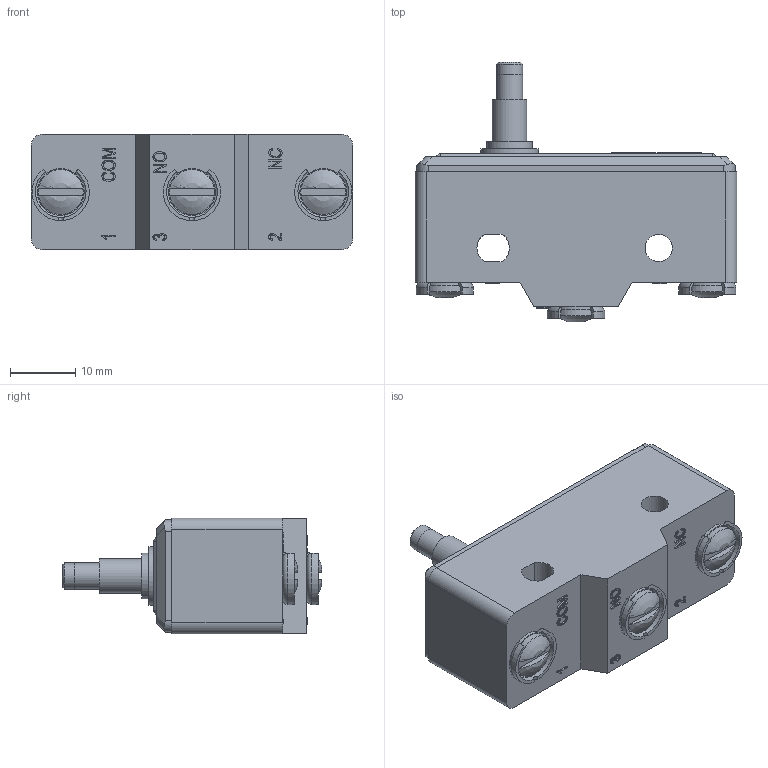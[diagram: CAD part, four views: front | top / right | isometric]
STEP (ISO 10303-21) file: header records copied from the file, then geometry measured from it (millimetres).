
FILE_DESCRIPTION((''),'2; 1');
FILE_NAME('','2026-03-27T16:26:29',(''),(''),'CST STEP Exporter V1.0','Unknown','');
FILE_SCHEMA(('CONFIG_CONTROL_DESIGN'));
Length unit declared in the file: metre
Assembly tree (11 placements, depth 2):
  (unnamed)
    (unnamed)
    (unnamed)
    (unnamed)
    (unnamed)
    (unnamed)
    (unnamed)
    (unnamed)
    (unnamed)
    (unnamed)
    (unnamed)
    (unnamed)
Bounding box: 49.4 x 39.81 x 17.7 mm (x, y, z)
Surface area: 11748.9 mm2 (no closed solid volume)
Topology: 0 solids, 11 shells, 379 faces, 1033 edges, 686 vertices
Faces by surface type: plane 261, extrusion 62, cylinder 39, torus 6, revolution 6, bspline 4, cone 1
Full cylindrical faces by diameter (mm): 4 x2, 4.2 x1, 5.3 x1, 6.9 x3, 7 x1, 8.9 x1
Entity records: 16696 total; most frequent: CARTESIAN_POINT 4325, ORIENTED_EDGE 1941, DIRECTION 1650, EDGE_CURVE 1019, VECTOR 811, LINE 749, VERTEX_POINT 682, EDGE_LOOP 438
